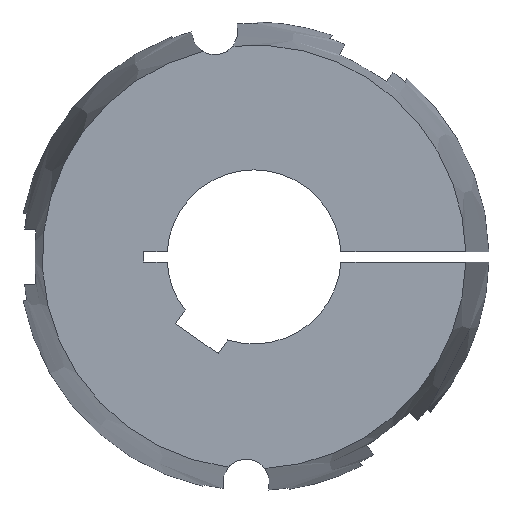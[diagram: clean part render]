
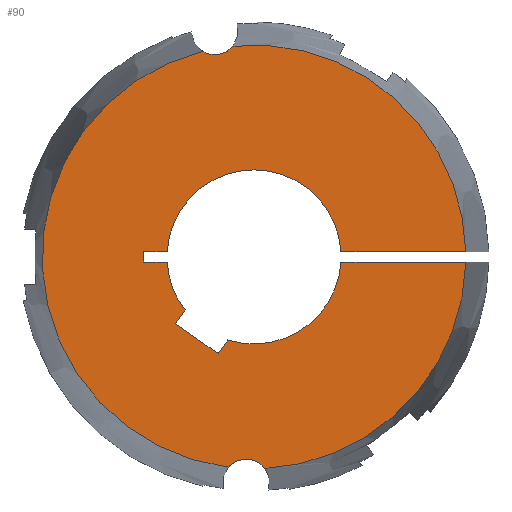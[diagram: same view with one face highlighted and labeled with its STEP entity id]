
A CAD part, left-side view. The second image highlights one B-rep face of the part: STEP entity #90.
In plain terms, the highlighted planar face has unit normal (-1, 0, 0).
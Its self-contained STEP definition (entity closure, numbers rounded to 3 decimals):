
#90 = ADVANCED_FACE( '', ( #140 ), #141, .F. );
#140 = FACE_OUTER_BOUND( '', #208, .T. );
#141 = PLANE( '', #209 );
#208 = EDGE_LOOP( '', ( #369, #370, #371, #372, #373, #374, #375, #376, #377, #378, #379, #380, #381, #382, #383, #384 ) );
#209 = AXIS2_PLACEMENT_3D( '', #385, #386, #387 );
#369 = ORIENTED_EDGE( '', *, *, #548, .F. );
#370 = ORIENTED_EDGE( '', *, *, #601, .F. );
#371 = ORIENTED_EDGE( '', *, *, #570, .T. );
#372 = ORIENTED_EDGE( '', *, *, #583, .T. );
#373 = ORIENTED_EDGE( '', *, *, #581, .T. );
#374 = ORIENTED_EDGE( '', *, *, #578, .T. );
#375 = ORIENTED_EDGE( '', *, *, #587, .T. );
#376 = ORIENTED_EDGE( '', *, *, #602, .T. );
#377 = ORIENTED_EDGE( '', *, *, #603, .T. );
#378 = ORIENTED_EDGE( '', *, *, #604, .T. );
#379 = ORIENTED_EDGE( '', *, *, #605, .T. );
#380 = ORIENTED_EDGE( '', *, *, #606, .T. );
#381 = ORIENTED_EDGE( '', *, *, #572, .T. );
#382 = ORIENTED_EDGE( '', *, *, #607, .F. );
#383 = ORIENTED_EDGE( '', *, *, #551, .F. );
#384 = ORIENTED_EDGE( '', *, *, #608, .F. );
#385 = CARTESIAN_POINT( '', ( -114., 0., 0. ) );
#386 = DIRECTION( '', ( 1., 0., 0. ) );
#387 = DIRECTION( '', ( 0., 1., 0. ) );
#548 = EDGE_CURVE( '', #649, #651, #652, .F. );
#551 = EDGE_CURVE( '', #655, #657, #658, .F. );
#570 = EDGE_CURVE( '', #693, #691, #694, .T. );
#572 = EDGE_CURVE( '', #696, #697, #698, .T. );
#578 = EDGE_CURVE( '', #709, #707, #710, .T. );
#581 = EDGE_CURVE( '', #714, #709, #715, .T. );
#583 = EDGE_CURVE( '', #691, #714, #717, .T. );
#587 = EDGE_CURVE( '', #707, #721, #723, .T. );
#601 = EDGE_CURVE( '', #693, #649, #745, .T. );
#602 = EDGE_CURVE( '', #721, #746, #747, .T. );
#603 = EDGE_CURVE( '', #746, #748, #749, .T. );
#604 = EDGE_CURVE( '', #748, #750, #751, .T. );
#605 = EDGE_CURVE( '', #750, #752, #753, .T. );
#606 = EDGE_CURVE( '', #752, #696, #754, .T. );
#607 = EDGE_CURVE( '', #657, #697, #755, .T. );
#608 = EDGE_CURVE( '', #651, #655, #756, .T. );
#649 = VERTEX_POINT( '', #815 );
#651 = VERTEX_POINT( '', #826 );
#652 = CIRCLE( '', #827, 8.125 );
#655 = VERTEX_POINT( '', #839 );
#657 = VERTEX_POINT( '', #852 );
#658 = CIRCLE( '', #853, 8.125 );
#691 = VERTEX_POINT( '', #920 );
#693 = VERTEX_POINT( '', #923 );
#694 = LINE( '', #924, #925 );
#696 = VERTEX_POINT( '', #933 );
#697 = VERTEX_POINT( '', #934 );
#698 = LINE( '', #935, #936 );
#707 = VERTEX_POINT( '', #954 );
#709 = VERTEX_POINT( '', #957 );
#710 = LINE( '', #958, #959 );
#714 = VERTEX_POINT( '', #965 );
#715 = LINE( '', #966, #967 );
#717 = CIRCLE( '', #970, 30. );
#721 = VERTEX_POINT( '', #975 );
#723 = LINE( '', #978, #979 );
#745 = CIRCLE( '', #1004, 73.028 );
#746 = VERTEX_POINT( '', #1005 );
#747 = CIRCLE( '', #1006, 30. );
#748 = VERTEX_POINT( '', #1007 );
#749 = LINE( '', #1008, #1009 );
#750 = VERTEX_POINT( '', #1010 );
#751 = LINE( '', #1011, #1012 );
#752 = VERTEX_POINT( '', #1013 );
#753 = LINE( '', #1014, #1015 );
#754 = CIRCLE( '', #1016, 30. );
#755 = CIRCLE( '', #1017, 73.028 );
#756 = CIRCLE( '', #1018, 73.028 );
#815 = CARTESIAN_POINT( '', ( -114., -3.751, -72.932 ) );
#826 = CARTESIAN_POINT( '', ( -114., 8.826, -72.493 ) );
#827 = AXIS2_PLACEMENT_3D( '', #1192, #1193, #1194 );
#839 = CARTESIAN_POINT( '', ( -114., 17.661, 70.861 ) );
#852 = CARTESIAN_POINT( '', ( -114., 7.262, 72.666 ) );
#853 = AXIS2_PLACEMENT_3D( '', #1195, #1196, #1197 );
#920 = CARTESIAN_POINT( '', ( -114., -29.949, -1.75 ) );
#923 = CARTESIAN_POINT( '', ( -114., -73.007, -1.75 ) );
#924 = CARTESIAN_POINT( '', ( -114., -81., -1.75 ) );
#925 = VECTOR( '', #1227, 1000. );
#933 = CARTESIAN_POINT( '', ( -114., -29.949, 1.75 ) );
#934 = CARTESIAN_POINT( '', ( -114., -73.007, 1.75 ) );
#935 = CARTESIAN_POINT( '', ( -114., 0., 1.75 ) );
#936 = VECTOR( '', #1228, 1000. );
#954 = CARTESIAN_POINT( '', ( -114., 27.103, -23.017 ) );
#957 = CARTESIAN_POINT( '', ( -114., 12.359, -33.341 ) );
#958 = CARTESIAN_POINT( '', ( -114., 12.359, -33.341 ) );
#959 = VECTOR( '', #1233, 1000. );
#965 = CARTESIAN_POINT( '', ( -114., 9.042, -28.605 ) );
#966 = CARTESIAN_POINT( '', ( -114., 9.042, -28.605 ) );
#967 = VECTOR( '', #1236, 1000. );
#970 = AXIS2_PLACEMENT_3D( '', #1238, #1239, #1240 );
#975 = CARTESIAN_POINT( '', ( -114., 23.787, -18.28 ) );
#978 = CARTESIAN_POINT( '', ( -114., 27.103, -23.017 ) );
#979 = VECTOR( '', #1246, 1000. );
#1004 = AXIS2_PLACEMENT_3D( '', #1280, #1281, #1282 );
#1005 = CARTESIAN_POINT( '', ( -114., 29.949, -1.75 ) );
#1006 = AXIS2_PLACEMENT_3D( '', #1283, #1284, #1285 );
#1007 = CARTESIAN_POINT( '', ( -114., 38., -1.75 ) );
#1008 = CARTESIAN_POINT( '', ( -114., 0., -1.75 ) );
#1009 = VECTOR( '', #1286, 1000. );
#1010 = CARTESIAN_POINT( '', ( -114., 38., 1.75 ) );
#1011 = CARTESIAN_POINT( '', ( -114., 38., -1.75 ) );
#1012 = VECTOR( '', #1287, 1000. );
#1013 = CARTESIAN_POINT( '', ( -114., 29.949, 1.75 ) );
#1014 = CARTESIAN_POINT( '', ( -114., 38., 1.75 ) );
#1015 = VECTOR( '', #1288, 1000. );
#1016 = AXIS2_PLACEMENT_3D( '', #1289, #1290, #1291 );
#1017 = AXIS2_PLACEMENT_3D( '', #1292, #1293, #1294 );
#1018 = AXIS2_PLACEMENT_3D( '', #1295, #1296, #1297 );
#1192 = CARTESIAN_POINT( '', ( -114., 2.717, -77.85 ) );
#1193 = DIRECTION( '', ( 1., 0., 0. ) );
#1194 = DIRECTION( '', ( 0., 1., 0. ) );
#1195 = CARTESIAN_POINT( '', ( -114., 13.519, 77.85 ) );
#1196 = DIRECTION( '', ( 1., 0., 0. ) );
#1197 = DIRECTION( '', ( 0., 1., 0. ) );
#1227 = DIRECTION( '', ( 0., 1., 0. ) );
#1228 = DIRECTION( '', ( 0., -1., 0. ) );
#1233 = DIRECTION( '', ( 0., 0.819, 0.574 ) );
#1236 = DIRECTION( '', ( 0., 0.574, -0.819 ) );
#1238 = CARTESIAN_POINT( '', ( -114., 0., 0. ) );
#1239 = DIRECTION( '', ( 1., 0., 0. ) );
#1240 = DIRECTION( '', ( 0., 0., -1. ) );
#1246 = DIRECTION( '', ( 0., -0.574, 0.819 ) );
#1280 = CARTESIAN_POINT( '', ( -114., 0., 0. ) );
#1281 = DIRECTION( '', ( 1., 0., 0. ) );
#1282 = DIRECTION( '', ( 0., 1., 0. ) );
#1283 = CARTESIAN_POINT( '', ( -114., 0., 0. ) );
#1284 = DIRECTION( '', ( 1., 0., 0. ) );
#1285 = DIRECTION( '', ( 0., 0., -1. ) );
#1286 = DIRECTION( '', ( 0., 1., 0. ) );
#1287 = DIRECTION( '', ( 0., 0., 1. ) );
#1288 = DIRECTION( '', ( 0., -1., 0. ) );
#1289 = CARTESIAN_POINT( '', ( -114., 0., 0. ) );
#1290 = DIRECTION( '', ( 1., 0., 0. ) );
#1291 = DIRECTION( '', ( 0., 0., -1. ) );
#1292 = CARTESIAN_POINT( '', ( -114., 0., 0. ) );
#1293 = DIRECTION( '', ( 1., 0., 0. ) );
#1294 = DIRECTION( '', ( 0., 1., 0. ) );
#1295 = CARTESIAN_POINT( '', ( -114., 0., 0. ) );
#1296 = DIRECTION( '', ( 1., 0., 0. ) );
#1297 = DIRECTION( '', ( 0., 1., 0. ) );
